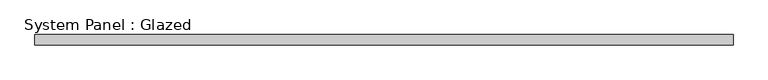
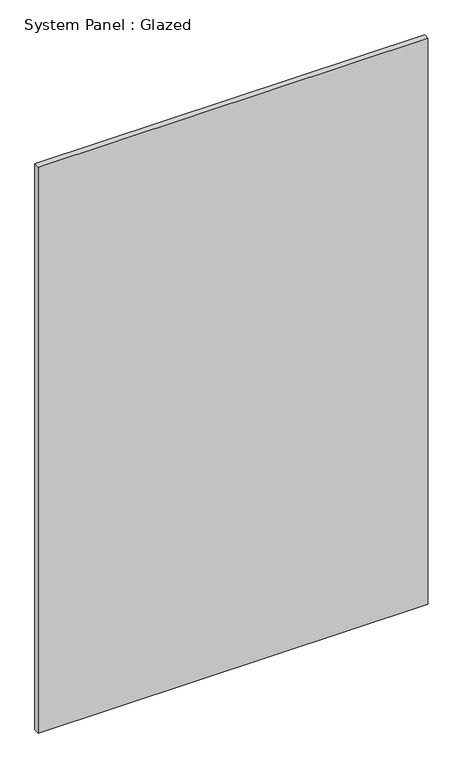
"""IFC4 building model written with IfcOpenShell, lengths in millimetres: plate geometry, System Panel : Glazed."""

from ifc_helpers import new_model, si_unit, origin, origin_with_axes, place, context, project, spatial, polyline, outline, extrude, source, transform, mapped, element, save


def system_panel_glazed_46c4b1e2(model_context):
    return source(origin(), model_context, "Body", "SweptSolid", [
        extrude(outline(polyline([(868.2793088, 19.05), (-868.2793088, 19.05), (-868.2793088, 44.45), (868.2793088, 44.45), (868.2793088, 19.05)])), origin_with_axes(), (0.0, 0.0, 1.0), 2666.6267362),
    ])


if __name__ == "__main__":
    model = new_model("IFC4")
    model_context = context("Model", 3, world=origin())
    ifc_project = project(units=[si_unit("LENGTHUNIT", "METRE", prefix="MILLI")], contexts=[model_context])
    site = spatial("IfcSite", under=ifc_project)
    building = spatial("IfcBuilding", under=site)
    placement = place(None, origin())
    system_panel_glazed_shape = system_panel_glazed_46c4b1e2(model_context)
    element("IfcPlate", 1, ObjectType="System Panel : Glazed", at=placement, inside=building, context=model_context, shape_type="MappedRepresentation", body=[
        mapped(system_panel_glazed_shape, transform((0.0, 0.0, 0.0), x_axis=(1.0, 0.0, 0.0), y_axis=(0.0, 1.0, 0.0), z_axis=(0.0, 0.0, 1.0))),
    ])
    save(model, "model.ifc")
